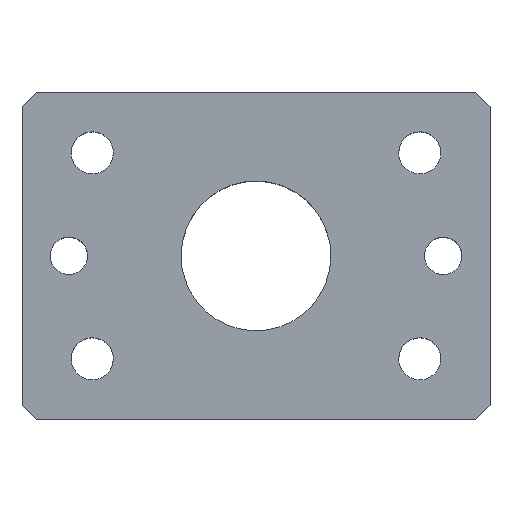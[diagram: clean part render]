
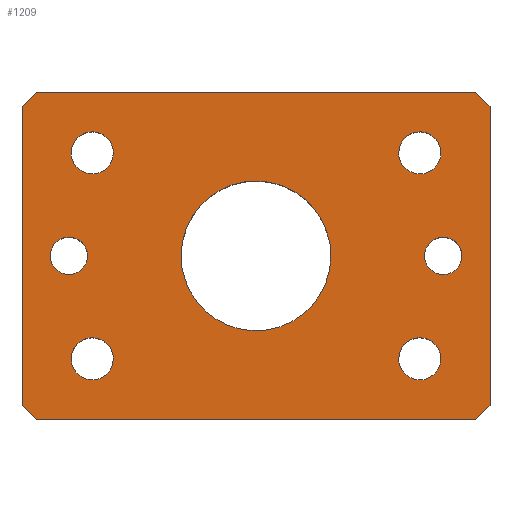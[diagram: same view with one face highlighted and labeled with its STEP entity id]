
A CAD part, top view. The second image highlights one B-rep face of the part: STEP entity #1209.
In plain terms, the highlighted planar face has unit normal (0, 0, 1).
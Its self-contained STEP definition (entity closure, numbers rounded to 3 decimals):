
#47=AXIS2_PLACEMENT_3D('Circle Axis2P3D',#45,#46,$) ;
#81=AXIS2_PLACEMENT_3D('Circle Axis2P3D',#79,#80,$) ;
#635=AXIS2_PLACEMENT_3D('Circle Axis2P3D',#633,#634,$) ;
#662=AXIS2_PLACEMENT_3D('Circle Axis2P3D',#660,#661,$) ;
#680=AXIS2_PLACEMENT_3D('Circle Axis2P3D',#678,#679,$) ;
#707=AXIS2_PLACEMENT_3D('Circle Axis2P3D',#705,#706,$) ;
#725=AXIS2_PLACEMENT_3D('Circle Axis2P3D',#723,#724,$) ;
#752=AXIS2_PLACEMENT_3D('Circle Axis2P3D',#750,#751,$) ;
#779=AXIS2_PLACEMENT_3D('Circle Axis2P3D',#777,#778,$) ;
#806=AXIS2_PLACEMENT_3D('Circle Axis2P3D',#804,#805,$) ;
#829=AXIS2_PLACEMENT_3D('Circle Axis2P3D',#827,#828,$) ;
#856=AXIS2_PLACEMENT_3D('Circle Axis2P3D',#854,#855,$) ;
#883=AXIS2_PLACEMENT_3D('Circle Axis2P3D',#881,#882,$) ;
#910=AXIS2_PLACEMENT_3D('Circle Axis2P3D',#908,#909,$) ;
#1164=AXIS2_PLACEMENT_3D('Plane Axis2P3D',#1161,#1162,#1163) ;
#40=CARTESIAN_POINT('Vertex',(-43.51,-1.918,32.)) ;
#45=CARTESIAN_POINT('Axis2P3D Location',(-40.,0.,32.)) ;
#49=CARTESIAN_POINT('Vertex',(-36.49,1.918,32.)) ;
#79=CARTESIAN_POINT('Axis2P3D Location',(-40.,0.,32.)) ;
#633=CARTESIAN_POINT('Axis2P3D Location',(-35.,22.,32.)) ;
#637=CARTESIAN_POINT('Vertex',(-31.051,24.157,32.)) ;
#639=CARTESIAN_POINT('Vertex',(-38.949,19.843,32.)) ;
#660=CARTESIAN_POINT('Axis2P3D Location',(-35.,22.,32.)) ;
#678=CARTESIAN_POINT('Axis2P3D Location',(35.,-22.,32.)) ;
#682=CARTESIAN_POINT('Vertex',(38.949,-19.843,32.)) ;
#684=CARTESIAN_POINT('Vertex',(31.051,-24.157,32.)) ;
#705=CARTESIAN_POINT('Axis2P3D Location',(35.,-22.,32.)) ;
#723=CARTESIAN_POINT('Axis2P3D Location',(35.,22.,32.)) ;
#727=CARTESIAN_POINT('Vertex',(38.949,24.157,32.)) ;
#729=CARTESIAN_POINT('Vertex',(31.051,19.843,32.)) ;
#750=CARTESIAN_POINT('Axis2P3D Location',(35.,22.,32.)) ;
#772=CARTESIAN_POINT('Vertex',(-14.041,-7.671,32.)) ;
#777=CARTESIAN_POINT('Axis2P3D Location',(0.,0.,32.)) ;
#781=CARTESIAN_POINT('Vertex',(14.041,7.671,32.)) ;
#804=CARTESIAN_POINT('Axis2P3D Location',(0.,0.,32.)) ;
#827=CARTESIAN_POINT('Axis2P3D Location',(-35.,-22.,32.)) ;
#831=CARTESIAN_POINT('Vertex',(-38.949,-24.157,32.)) ;
#833=CARTESIAN_POINT('Vertex',(-31.051,-19.843,32.)) ;
#854=CARTESIAN_POINT('Axis2P3D Location',(-35.,-22.,32.)) ;
#876=CARTESIAN_POINT('Vertex',(36.49,-1.918,32.)) ;
#881=CARTESIAN_POINT('Axis2P3D Location',(40.,0.,32.)) ;
#885=CARTESIAN_POINT('Vertex',(43.51,1.918,32.)) ;
#908=CARTESIAN_POINT('Axis2P3D Location',(40.,0.,32.)) ;
#937=CARTESIAN_POINT('Vertex',(47.,-35.,32.)) ;
#951=CARTESIAN_POINT('Vertex',(50.,-32.,32.)) ;
#954=CARTESIAN_POINT('Line Origine',(48.5,-33.5,32.)) ;
#977=CARTESIAN_POINT('Vertex',(-47.,-35.,32.)) ;
#985=CARTESIAN_POINT('Line Origine',(0.,-35.,32.)) ;
#1016=CARTESIAN_POINT('Vertex',(-50.,-32.,32.)) ;
#1024=CARTESIAN_POINT('Line Origine',(-48.5,-33.5,32.)) ;
#1047=CARTESIAN_POINT('Vertex',(50.,32.,32.)) ;
#1050=CARTESIAN_POINT('Line Origine',(50.,0.,32.)) ;
#1084=CARTESIAN_POINT('Vertex',(47.,35.,32.)) ;
#1087=CARTESIAN_POINT('Line Origine',(48.5,33.5,32.)) ;
#1110=CARTESIAN_POINT('Vertex',(-50.,32.,32.)) ;
#1118=CARTESIAN_POINT('Line Origine',(-50.,0.,32.)) ;
#1141=CARTESIAN_POINT('Vertex',(-47.,35.,32.)) ;
#1144=CARTESIAN_POINT('Line Origine',(0.,35.,32.)) ;
#1161=CARTESIAN_POINT('Axis2P3D Location',(0.,0.,32.)) ;
#1166=CARTESIAN_POINT('Line Origine',(-48.5,33.5,32.)) ;
#46=DIRECTION('Axis2P3D Direction',(0.,-0.,1.)) ;
#80=DIRECTION('Axis2P3D Direction',(0.,-0.,1.)) ;
#634=DIRECTION('Axis2P3D Direction',(0.,-0.,1.)) ;
#661=DIRECTION('Axis2P3D Direction',(0.,-0.,1.)) ;
#679=DIRECTION('Axis2P3D Direction',(0.,-0.,1.)) ;
#706=DIRECTION('Axis2P3D Direction',(0.,-0.,1.)) ;
#724=DIRECTION('Axis2P3D Direction',(0.,-0.,1.)) ;
#751=DIRECTION('Axis2P3D Direction',(0.,-0.,1.)) ;
#778=DIRECTION('Axis2P3D Direction',(0.,-0.,1.)) ;
#805=DIRECTION('Axis2P3D Direction',(0.,-0.,1.)) ;
#828=DIRECTION('Axis2P3D Direction',(0.,-0.,1.)) ;
#855=DIRECTION('Axis2P3D Direction',(0.,-0.,1.)) ;
#882=DIRECTION('Axis2P3D Direction',(0.,-0.,1.)) ;
#909=DIRECTION('Axis2P3D Direction',(0.,-0.,1.)) ;
#955=DIRECTION('Vector Direction',(-0.707,-0.707,0.)) ;
#986=DIRECTION('Vector Direction',(-1.,0.,0.)) ;
#1025=DIRECTION('Vector Direction',(0.707,-0.707,0.)) ;
#1051=DIRECTION('Vector Direction',(0.,-1.,0.)) ;
#1088=DIRECTION('Vector Direction',(-0.707,0.707,0.)) ;
#1119=DIRECTION('Vector Direction',(0.,1.,0.)) ;
#1145=DIRECTION('Vector Direction',(1.,0.,0.)) ;
#1162=DIRECTION('Axis2P3D Direction',(0.,0.,1.)) ;
#1163=DIRECTION('Axis2P3D XDirection',(1.,0.,0.)) ;
#1167=DIRECTION('Vector Direction',(0.707,0.707,0.)) ;
#956=VECTOR('Line Direction',#955,1.) ;
#987=VECTOR('Line Direction',#986,1.) ;
#1026=VECTOR('Line Direction',#1025,1.) ;
#1052=VECTOR('Line Direction',#1051,1.) ;
#1089=VECTOR('Line Direction',#1088,1.) ;
#1120=VECTOR('Line Direction',#1119,1.) ;
#1146=VECTOR('Line Direction',#1145,1.) ;
#1168=VECTOR('Line Direction',#1167,1.) ;
#1172=ORIENTED_EDGE('',*,*,#1122,.T.) ;
#1173=ORIENTED_EDGE('',*,*,#1028,.F.) ;
#1174=ORIENTED_EDGE('',*,*,#989,.T.) ;
#1175=ORIENTED_EDGE('',*,*,#958,.F.) ;
#1176=ORIENTED_EDGE('',*,*,#1054,.T.) ;
#1177=ORIENTED_EDGE('',*,*,#1091,.F.) ;
#1178=ORIENTED_EDGE('',*,*,#1148,.T.) ;
#1179=ORIENTED_EDGE('',*,*,#1170,.F.) ;
#1182=ORIENTED_EDGE('',*,*,#887,.F.) ;
#1183=ORIENTED_EDGE('',*,*,#912,.F.) ;
#1186=ORIENTED_EDGE('',*,*,#83,.F.) ;
#1187=ORIENTED_EDGE('',*,*,#51,.F.) ;
#1190=ORIENTED_EDGE('',*,*,#858,.F.) ;
#1191=ORIENTED_EDGE('',*,*,#835,.F.) ;
#1194=ORIENTED_EDGE('',*,*,#808,.F.) ;
#1195=ORIENTED_EDGE('',*,*,#783,.F.) ;
#1198=ORIENTED_EDGE('',*,*,#754,.F.) ;
#1199=ORIENTED_EDGE('',*,*,#731,.F.) ;
#1202=ORIENTED_EDGE('',*,*,#709,.F.) ;
#1203=ORIENTED_EDGE('',*,*,#686,.F.) ;
#1206=ORIENTED_EDGE('',*,*,#664,.F.) ;
#1207=ORIENTED_EDGE('',*,*,#641,.F.) ;
#1184=FACE_BOUND('',#1181,.T.) ;
#1188=FACE_BOUND('',#1185,.T.) ;
#1192=FACE_BOUND('',#1189,.T.) ;
#1196=FACE_BOUND('',#1193,.T.) ;
#1200=FACE_BOUND('',#1197,.T.) ;
#1204=FACE_BOUND('',#1201,.T.) ;
#1208=FACE_BOUND('',#1205,.T.) ;
#1209=ADVANCED_FACE('PartBody',(#1180,#1184,#1188,#1192,#1196,#1200,#1204,#1208),#1165,.T.) ;
#48=CIRCLE('generated circle',#47,4.) ;
#82=CIRCLE('generated circle',#81,4.) ;
#636=CIRCLE('generated circle',#635,4.5) ;
#663=CIRCLE('generated circle',#662,4.5) ;
#681=CIRCLE('generated circle',#680,4.5) ;
#708=CIRCLE('generated circle',#707,4.5) ;
#726=CIRCLE('generated circle',#725,4.5) ;
#753=CIRCLE('generated circle',#752,4.5) ;
#780=CIRCLE('generated circle',#779,16.) ;
#807=CIRCLE('generated circle',#806,16.) ;
#830=CIRCLE('generated circle',#829,4.5) ;
#857=CIRCLE('generated circle',#856,4.5) ;
#884=CIRCLE('generated circle',#883,4.) ;
#911=CIRCLE('generated circle',#910,4.) ;
#51=EDGE_CURVE('',#41,#50,#48,.T.) ;
#83=EDGE_CURVE('',#50,#41,#82,.T.) ;
#641=EDGE_CURVE('',#638,#640,#636,.T.) ;
#664=EDGE_CURVE('',#640,#638,#663,.T.) ;
#686=EDGE_CURVE('',#683,#685,#681,.T.) ;
#709=EDGE_CURVE('',#685,#683,#708,.T.) ;
#731=EDGE_CURVE('',#728,#730,#726,.T.) ;
#754=EDGE_CURVE('',#730,#728,#753,.T.) ;
#783=EDGE_CURVE('',#773,#782,#780,.T.) ;
#808=EDGE_CURVE('',#782,#773,#807,.T.) ;
#835=EDGE_CURVE('',#832,#834,#830,.T.) ;
#858=EDGE_CURVE('',#834,#832,#857,.T.) ;
#887=EDGE_CURVE('',#877,#886,#884,.T.) ;
#912=EDGE_CURVE('',#886,#877,#911,.T.) ;
#958=EDGE_CURVE('',#952,#938,#957,.T.) ;
#989=EDGE_CURVE('',#978,#938,#988,.F.) ;
#1028=EDGE_CURVE('',#978,#1017,#1027,.F.) ;
#1054=EDGE_CURVE('',#952,#1048,#1053,.F.) ;
#1091=EDGE_CURVE('',#1085,#1048,#1090,.F.) ;
#1122=EDGE_CURVE('',#1111,#1017,#1121,.F.) ;
#1148=EDGE_CURVE('',#1085,#1142,#1147,.F.) ;
#1170=EDGE_CURVE('',#1111,#1142,#1169,.T.) ;
#1171=EDGE_LOOP('',(#1172,#1173,#1174,#1175,#1176,#1177,#1178,#1179)) ;
#1181=EDGE_LOOP('',(#1182,#1183)) ;
#1185=EDGE_LOOP('',(#1186,#1187)) ;
#1189=EDGE_LOOP('',(#1190,#1191)) ;
#1193=EDGE_LOOP('',(#1194,#1195)) ;
#1197=EDGE_LOOP('',(#1198,#1199)) ;
#1201=EDGE_LOOP('',(#1202,#1203)) ;
#1205=EDGE_LOOP('',(#1206,#1207)) ;
#1180=FACE_OUTER_BOUND('',#1171,.T.) ;
#957=LINE('Line',#954,#956) ;
#988=LINE('Line',#985,#987) ;
#1027=LINE('Line',#1024,#1026) ;
#1053=LINE('Line',#1050,#1052) ;
#1090=LINE('Line',#1087,#1089) ;
#1121=LINE('Line',#1118,#1120) ;
#1147=LINE('Line',#1144,#1146) ;
#1169=LINE('Line',#1166,#1168) ;
#1165=PLANE('',#1164) ;
#41=VERTEX_POINT('',#40) ;
#50=VERTEX_POINT('',#49) ;
#638=VERTEX_POINT('',#637) ;
#640=VERTEX_POINT('',#639) ;
#683=VERTEX_POINT('',#682) ;
#685=VERTEX_POINT('',#684) ;
#728=VERTEX_POINT('',#727) ;
#730=VERTEX_POINT('',#729) ;
#773=VERTEX_POINT('',#772) ;
#782=VERTEX_POINT('',#781) ;
#832=VERTEX_POINT('',#831) ;
#834=VERTEX_POINT('',#833) ;
#877=VERTEX_POINT('',#876) ;
#886=VERTEX_POINT('',#885) ;
#938=VERTEX_POINT('',#937) ;
#952=VERTEX_POINT('',#951) ;
#978=VERTEX_POINT('',#977) ;
#1017=VERTEX_POINT('',#1016) ;
#1048=VERTEX_POINT('',#1047) ;
#1085=VERTEX_POINT('',#1084) ;
#1111=VERTEX_POINT('',#1110) ;
#1142=VERTEX_POINT('',#1141) ;
